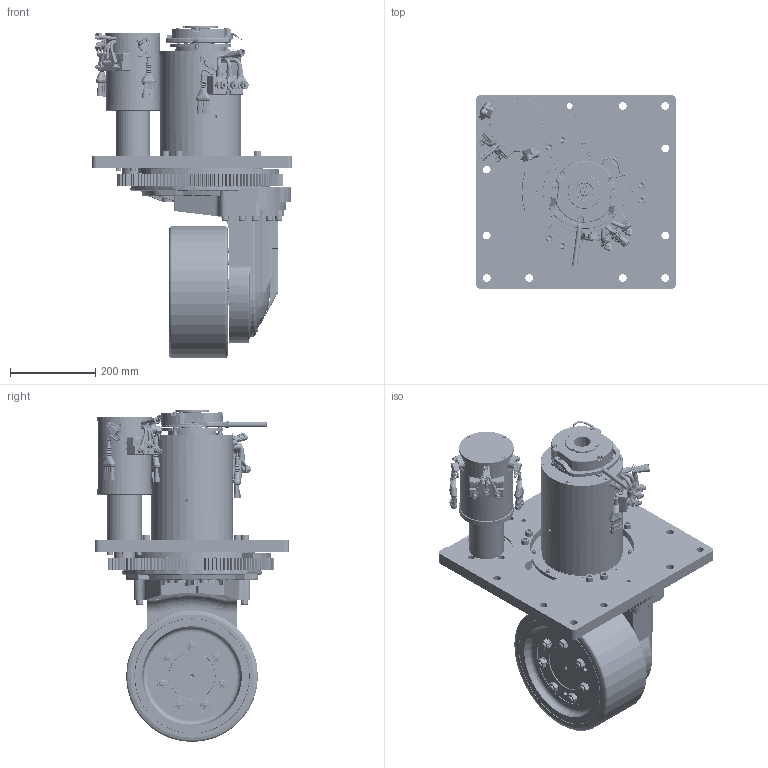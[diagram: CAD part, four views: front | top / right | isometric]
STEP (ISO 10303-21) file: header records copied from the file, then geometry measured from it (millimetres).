
FILE_DESCRIPTION(/* description */ (''),/* implementation_level */ '2;1');
FILE_NAME(/* name */ 'C:\Users\marco bosi\Desktop\WR310FMS-AC167.stp',/* time_stamp */ '2023-07-13T12:25:57+02:00',/* author */ ('marco bosi'),/* organization */ (''),/* preprocessor_version */ 'ST-DEVELOPER v18.1',/* originating_system */ 'Autodesk Inventor 2022',/* authorisation */ '');
FILE_SCHEMA (('AUTOMOTIVE_DESIGN { 1 0 10303 214 3 1 1 }'));
Length unit declared in the file: millimetre
Products named in the file (1): WR310FMS2_Semplifica_1
Bounding box: 470 x 455 x 781 mm (x, y, z)
Volume: 23066201.3 mm3; surface area: 2942542.2 mm2
Topology: 8 solids, 9 shells, 14429 faces, 38623 edges, 25093 vertices
Faces by surface type: plane 10368, cylinder 2543, cone 832, torus 364, bspline 240, sphere 82
Full cylindrical faces by diameter (mm): 1 x2, 2.5 x2, 4 x14, 4.134 x13, 4.5 x4, 4.8 x1, 4.917 x17, 5 x13, 5.3 x4, 5.5 x12, 6 x40, 6.2 x6, 6.3 x2, 6.4 x2, 6.5 x24, 6.647 x15, 7 x2, 7.5 x1, 8 x18, 8.376 x6, 8.5 x15, 9 x19, 9.026 x3, 9.64 x2, 9.8 x9, 10 x38, 10.106 x16, 10.2 x5, 10.5 x10, 11 x12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
Entity records: 489085 total; most frequent: CARTESIAN_POINT 111149, ORIENTED_EDGE 76896, DIRECTION 75234, EDGE_CURVE 38448, AXIS2_PLACEMENT_3D 25842, VERTEX_POINT 25093, LINE 23550, VECTOR 23550
